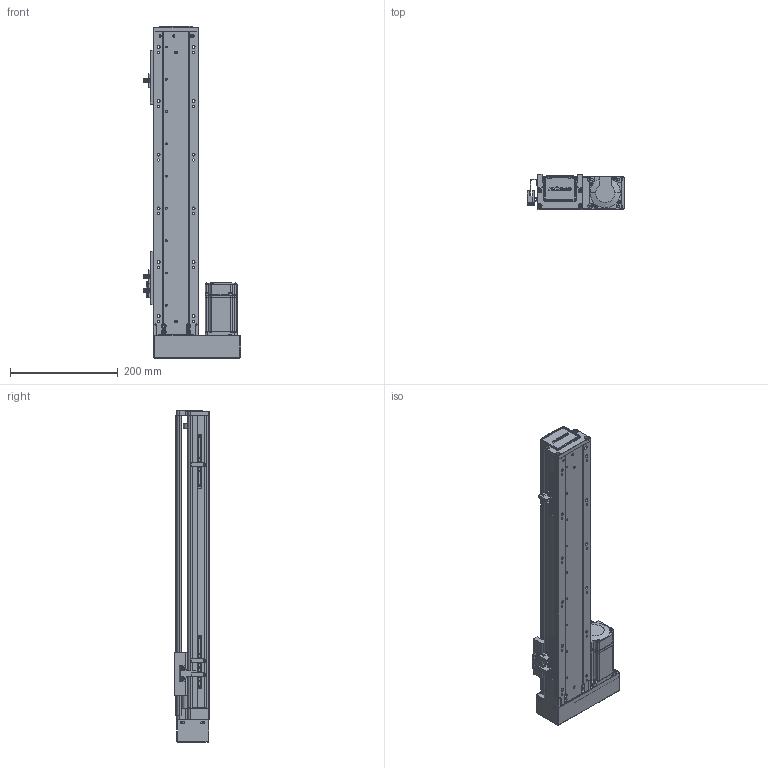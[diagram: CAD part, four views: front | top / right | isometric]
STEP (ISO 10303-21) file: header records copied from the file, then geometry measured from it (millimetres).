
FILE_DESCRIPTION (( 'STEP AP203' ), '1' );
FILE_NAME ('RY80-L1620-300-LK.SLDASM_400.step', '2021-02-20T07:16:44', ( '盈信电脑' ), ( '东莞市道滘镇水果街19号' ), 'SwSTEP 2.0', 'SolidWorks 2012', '' );
FILE_SCHEMA (( 'CONFIG_CONTROL_DESIGN' ));
Length unit declared in the file: millimetre
Products named in the file (15): RY80-L1620-300-LK.SLDASM_400; RY80俋离覜茼え; T倰羞; 滅袉蝶18-24; 覜茼ん672; RY80酘殏俋欶; 侂狟200W萇儂; RY80酘莞萇儂假蚾啣; 滅袉蝶18-10; RY80綴裔啣; RY80转接电机端支撑座; 1; RY80-300蛌諉倰第奻裔啣-LK_400; RY80臏賑輸; RY80-300蛌諉倰第菁釱-LK_400
Assembly tree (17 placements, depth 3):
  RY80-L1620-300-LK.SLDASM_400
    RY80-300蛌諉倰第菁釱-LK_400
    RY80臏賑輸
    RY80-300蛌諉倰第奻裔啣-LK_400
    RY80綴裔啣
    滅袉蝶18-10
    RY80转接电机端支撑座
    侂狟200W萇儂
      1
    RY80酘莞萇儂假蚾啣
    RY80酘殏俋欶
    覜茼ん672  x3
    T倰羞  x2
    RY80俋离覜茼え
    滅袉蝶18-24
Bounding box: 181.7 x 65 x 617 mm (x, y, z)
Volume: 1367221.6 mm3; surface area: 523620.9 mm2
Topology: 16 solids, 16 shells, 2150 faces, 5919 edges, 3833 vertices
Faces by surface type: plane 1171, cylinder 779, cone 138, bspline 62
Entity records: 68133 total; most frequent: CARTESIAN_POINT 17299, ORIENTED_EDGE 10526, DIRECTION 9810, EDGE_CURVE 5263, VERTEX_POINT 3449, LINE 3274, VECTOR 3274, AXIS2_PLACEMENT_3D 3268
